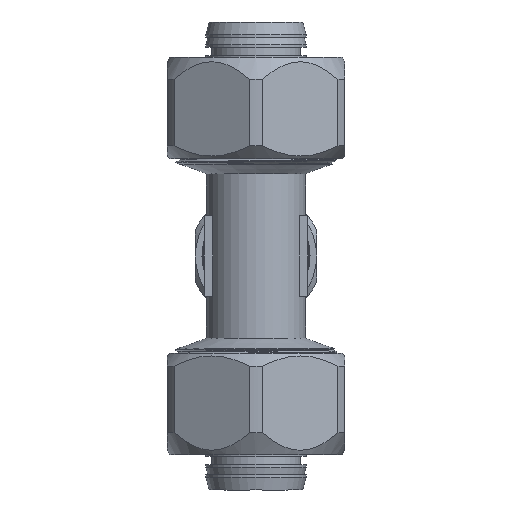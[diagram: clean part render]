
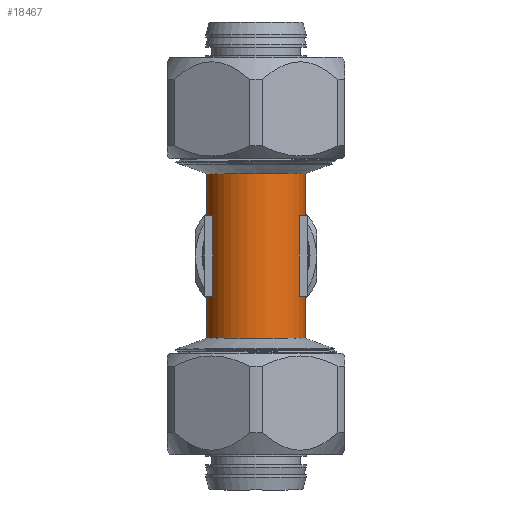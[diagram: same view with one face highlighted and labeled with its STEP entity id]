
A CAD part, front view. The second image highlights one B-rep face of the part: STEP entity #18467.
In plain terms, the highlighted cylindrical face has radius 9.8 mm (diameter 19.6 mm), a full revolution.
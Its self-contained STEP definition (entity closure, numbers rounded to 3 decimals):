
#226=B_SPLINE_CURVE_WITH_KNOTS('',3,(#24509,#24510,#24511,#24512,#24513,
#24514,#24515,#24516,#24517,#24518,#24519,#24520),.UNSPECIFIED.,.F.,.F.,
(4,2,2,2,2,4),(0.,0.165,0.33,0.661,
0.98,1.298),.UNSPECIFIED.);
#227=B_SPLINE_CURVE_WITH_KNOTS('',3,(#24522,#24523,#24524,#24525,#24526,
#24527,#24528,#24529,#24530,#24531,#24532,#24533),.UNSPECIFIED.,.F.,.F.,
(4,2,2,2,2,4),(3.895,4.214,4.533,4.863,
5.028,5.194),.UNSPECIFIED.);
#228=B_SPLINE_CURVE_WITH_KNOTS('',3,(#24534,#24535,#24536,#24537,#24538,
#24539,#24540,#24541,#24542,#24543,#24544,#24545,#24546,#24547,#24548,#24549,
#24550,#24551,#24552,#24553,#24554,#24555),.UNSPECIFIED.,.F.,.F.,(4,2,2,
2,2,2,2,2,2,2,4),(1.298,1.617,1.936,2.266,
2.432,2.597,2.762,2.927,3.258,
3.577,3.895),.UNSPECIFIED.);
#1949=FACE_BOUND('',#3684,.T.);
#1950=FACE_BOUND('',#3685,.T.);
#2374=CYLINDRICAL_SURFACE('',#19710,9.8);
#2607=FACE_OUTER_BOUND('',#3683,.T.);
#3683=EDGE_LOOP('',(#12833,#12834,#12835,#12836,#12837,#12838,#12839,#12840,
#12841,#12842));
#3684=EDGE_LOOP('',(#12843,#12844,#12845,#12846));
#3685=EDGE_LOOP('',(#12847,#12848,#12849,#12850));
#4892=LINE('',#24407,#6052);
#4895=LINE('',#24413,#6055);
#4900=LINE('',#24424,#6060);
#4904=LINE('',#24434,#6064);
#4912=LINE('',#24576,#6072);
#4913=LINE('',#24578,#6073);
#6052=VECTOR('',#20926,10.);
#6055=VECTOR('',#20931,10.);
#6060=VECTOR('',#20942,10.);
#6064=VECTOR('',#20954,10.);
#6072=VECTOR('',#21008,9.8);
#6073=VECTOR('',#21009,9.8);
#7113=CIRCLE('',#19627,9.8);
#7125=CIRCLE('',#19676,9.8);
#7126=CIRCLE('',#19678,9.8);
#7127=CIRCLE('',#19682,9.8);
#7128=CIRCLE('',#19686,9.8);
#7142=CIRCLE('',#19711,9.8);
#7143=CIRCLE('',#19712,9.8);
#7592=VERTEX_POINT('',#24031);
#7676=VERTEX_POINT('',#24388);
#7677=VERTEX_POINT('',#24389);
#7680=VERTEX_POINT('',#24397);
#7681=VERTEX_POINT('',#24398);
#7684=VERTEX_POINT('',#24406);
#7686=VERTEX_POINT('',#24412);
#7688=VERTEX_POINT('',#24418);
#7690=VERTEX_POINT('',#24428);
#7702=VERTEX_POINT('',#24506);
#7703=VERTEX_POINT('',#24508);
#7704=VERTEX_POINT('',#24521);
#7711=VERTEX_POINT('',#24577);
#7712=VERTEX_POINT('',#24579);
#9569=EDGE_CURVE('',#7592,#7592,#7113,.T.);
#9693=EDGE_CURVE('',#7676,#7677,#7125,.T.);
#9697=EDGE_CURVE('',#7680,#7681,#7126,.T.);
#9701=EDGE_CURVE('',#7684,#7676,#4892,.T.);
#9704=EDGE_CURVE('',#7681,#7686,#4895,.T.);
#9707=EDGE_CURVE('',#7688,#7684,#7127,.T.);
#9710=EDGE_CURVE('',#7677,#7688,#4900,.T.);
#9712=EDGE_CURVE('',#7686,#7690,#7128,.T.);
#9715=EDGE_CURVE('',#7690,#7680,#4904,.T.);
#9731=EDGE_CURVE('',#7703,#7702,#226,.T.);
#9732=EDGE_CURVE('',#7704,#7703,#227,.T.);
#9733=EDGE_CURVE('',#7702,#7704,#228,.T.);
#9742=EDGE_CURVE('',#7592,#7704,#4912,.T.);
#9743=EDGE_CURVE('',#7702,#7711,#4913,.T.);
#9744=EDGE_CURVE('',#7711,#7712,#7142,.T.);
#9745=EDGE_CURVE('',#7712,#7711,#7143,.T.);
#12833=ORIENTED_EDGE('',*,*,#9569,.T.);
#12834=ORIENTED_EDGE('',*,*,#9742,.T.);
#12835=ORIENTED_EDGE('',*,*,#9732,.T.);
#12836=ORIENTED_EDGE('',*,*,#9731,.T.);
#12837=ORIENTED_EDGE('',*,*,#9743,.T.);
#12838=ORIENTED_EDGE('',*,*,#9744,.T.);
#12839=ORIENTED_EDGE('',*,*,#9745,.T.);
#12840=ORIENTED_EDGE('',*,*,#9743,.F.);
#12841=ORIENTED_EDGE('',*,*,#9733,.T.);
#12842=ORIENTED_EDGE('',*,*,#9742,.F.);
#12843=ORIENTED_EDGE('',*,*,#9697,.T.);
#12844=ORIENTED_EDGE('',*,*,#9704,.T.);
#12845=ORIENTED_EDGE('',*,*,#9712,.T.);
#12846=ORIENTED_EDGE('',*,*,#9715,.T.);
#12847=ORIENTED_EDGE('',*,*,#9693,.T.);
#12848=ORIENTED_EDGE('',*,*,#9710,.T.);
#12849=ORIENTED_EDGE('',*,*,#9707,.T.);
#12850=ORIENTED_EDGE('',*,*,#9701,.T.);
#18467=ADVANCED_FACE('',(#2607,#1949,#1950),#2374,.T.);
#19627=AXIS2_PLACEMENT_3D('',#24032,#20718,#20719);
#19676=AXIS2_PLACEMENT_3D('',#24390,#20912,#20913);
#19678=AXIS2_PLACEMENT_3D('',#24399,#20919,#20920);
#19682=AXIS2_PLACEMENT_3D('',#24419,#20936,#20937);
#19686=AXIS2_PLACEMENT_3D('',#24429,#20948,#20949);
#19710=AXIS2_PLACEMENT_3D('',#24575,#21006,#21007);
#19711=AXIS2_PLACEMENT_3D('',#24580,#21010,#21011);
#19712=AXIS2_PLACEMENT_3D('',#24581,#21012,#21013);
#20718=DIRECTION('center_axis',(0.,0.,-1.));
#20719=DIRECTION('ref_axis',(0.,-1.,0.));
#20912=DIRECTION('center_axis',(0.,0.,-1.));
#20913=DIRECTION('ref_axis',(0.,-1.,0.));
#20919=DIRECTION('center_axis',(0.,0.,-1.));
#20920=DIRECTION('ref_axis',(0.,-1.,0.));
#20926=DIRECTION('',(0.,0.,-1.));
#20931=DIRECTION('',(0.,0.,1.));
#20936=DIRECTION('center_axis',(0.,0.,1.));
#20937=DIRECTION('ref_axis',(0.,-1.,0.));
#20942=DIRECTION('',(0.,0.,1.));
#20948=DIRECTION('center_axis',(0.,0.,1.));
#20949=DIRECTION('ref_axis',(0.,-1.,0.));
#20954=DIRECTION('',(0.,0.,-1.));
#21006=DIRECTION('center_axis',(0.,0.,1.));
#21007=DIRECTION('ref_axis',(0.,-1.,0.));
#21008=DIRECTION('',(0.,0.,-1.));
#21009=DIRECTION('',(0.,0.,-1.));
#21010=DIRECTION('center_axis',(0.,0.,1.));
#21011=DIRECTION('ref_axis',(1.,0.,0.));
#21012=DIRECTION('center_axis',(0.,0.,1.));
#21013=DIRECTION('ref_axis',(1.,0.,0.));
#24031=CARTESIAN_POINT('',(0.,9.8,16.249));
#24032=CARTESIAN_POINT('Origin',(0.,0.,16.249));
#24388=CARTESIAN_POINT('',(-8.564,-4.764,-8.));
#24389=CARTESIAN_POINT('',(-8.579,4.736,-8.));
#24390=CARTESIAN_POINT('Origin',(0.,0.,-8.));
#24397=CARTESIAN_POINT('',(8.579,4.736,-8.));
#24398=CARTESIAN_POINT('',(8.564,-4.764,-8.));
#24399=CARTESIAN_POINT('Origin',(0.,0.,-8.));
#24406=CARTESIAN_POINT('',(-8.564,-4.764,8.));
#24407=CARTESIAN_POINT('',(-8.564,-4.764,-8.125));
#24412=CARTESIAN_POINT('',(8.564,-4.764,8.));
#24413=CARTESIAN_POINT('',(8.564,-4.764,-8.125));
#24418=CARTESIAN_POINT('',(-8.579,4.736,8.));
#24419=CARTESIAN_POINT('Origin',(0.,0.,8.));
#24424=CARTESIAN_POINT('',(-8.579,4.736,-8.125));
#24428=CARTESIAN_POINT('',(8.579,4.736,8.));
#24429=CARTESIAN_POINT('Origin',(0.,0.,8.));
#24434=CARTESIAN_POINT('',(8.579,4.736,-8.125));
#24506=CARTESIAN_POINT('',(0.,9.8,-8.));
#24508=CARTESIAN_POINT('',(-8.,5.66,0.));
#24509=CARTESIAN_POINT('Ctrl Pts',(-8.,5.66,0.));
#24510=CARTESIAN_POINT('Ctrl Pts',(-8.,5.66,-0.551));
#24511=CARTESIAN_POINT('Ctrl Pts',(-7.943,5.743,-1.094));
#24512=CARTESIAN_POINT('Ctrl Pts',(-7.726,6.032,-2.144));
#24513=CARTESIAN_POINT('Ctrl Pts',(-7.566,6.236,-2.651));
#24514=CARTESIAN_POINT('Ctrl Pts',(-6.951,6.936,-4.096));
#24515=CARTESIAN_POINT('Ctrl Pts',(-6.354,7.51,-4.96));
#24516=CARTESIAN_POINT('Ctrl Pts',(-4.985,8.478,-6.329));
#24517=CARTESIAN_POINT('Ctrl Pts',(-4.121,8.952,-6.939));
#24518=CARTESIAN_POINT('Ctrl Pts',(-2.161,9.615,-7.776));
#24519=CARTESIAN_POINT('Ctrl Pts',(-1.063,9.8,-8.));
#24520=CARTESIAN_POINT('Ctrl Pts',(0.,9.8,
-8.));
#24521=CARTESIAN_POINT('',(0.,9.8,8.));
#24522=CARTESIAN_POINT('Ctrl Pts',(0.,9.8,
8.));
#24523=CARTESIAN_POINT('Ctrl Pts',(-1.063,9.8,8.));
#24524=CARTESIAN_POINT('Ctrl Pts',(-2.161,9.615,7.776));
#24525=CARTESIAN_POINT('Ctrl Pts',(-4.121,8.952,6.939));
#24526=CARTESIAN_POINT('Ctrl Pts',(-4.985,8.478,6.329));
#24527=CARTESIAN_POINT('Ctrl Pts',(-6.354,7.51,4.96));
#24528=CARTESIAN_POINT('Ctrl Pts',(-6.951,6.936,4.096));
#24529=CARTESIAN_POINT('Ctrl Pts',(-7.566,6.236,2.651));
#24530=CARTESIAN_POINT('Ctrl Pts',(-7.726,6.032,2.144));
#24531=CARTESIAN_POINT('Ctrl Pts',(-7.943,5.743,1.094));
#24532=CARTESIAN_POINT('Ctrl Pts',(-8.,5.66,0.551));
#24533=CARTESIAN_POINT('Ctrl Pts',(-8.,5.66,0.));
#24534=CARTESIAN_POINT('Ctrl Pts',(0.,9.8,
-8.));
#24535=CARTESIAN_POINT('Ctrl Pts',(1.063,9.8,-8.));
#24536=CARTESIAN_POINT('Ctrl Pts',(2.161,9.615,-7.776));
#24537=CARTESIAN_POINT('Ctrl Pts',(4.121,8.952,-6.939));
#24538=CARTESIAN_POINT('Ctrl Pts',(4.985,8.478,-6.329));
#24539=CARTESIAN_POINT('Ctrl Pts',(6.354,7.51,-4.96));
#24540=CARTESIAN_POINT('Ctrl Pts',(6.951,6.936,-4.096));
#24541=CARTESIAN_POINT('Ctrl Pts',(7.566,6.236,-2.651));
#24542=CARTESIAN_POINT('Ctrl Pts',(7.726,6.032,-2.144));
#24543=CARTESIAN_POINT('Ctrl Pts',(7.943,5.743,-1.094));
#24544=CARTESIAN_POINT('Ctrl Pts',(8.,5.66,-0.551));
#24545=CARTESIAN_POINT('Ctrl Pts',(8.,5.66,0.551));
#24546=CARTESIAN_POINT('Ctrl Pts',(7.943,5.743,1.094));
#24547=CARTESIAN_POINT('Ctrl Pts',(7.726,6.032,2.144));
#24548=CARTESIAN_POINT('Ctrl Pts',(7.566,6.236,2.651));
#24549=CARTESIAN_POINT('Ctrl Pts',(6.951,6.936,4.096));
#24550=CARTESIAN_POINT('Ctrl Pts',(6.354,7.51,4.96));
#24551=CARTESIAN_POINT('Ctrl Pts',(4.985,8.478,6.329));
#24552=CARTESIAN_POINT('Ctrl Pts',(4.121,8.952,6.939));
#24553=CARTESIAN_POINT('Ctrl Pts',(2.161,9.615,7.776));
#24554=CARTESIAN_POINT('Ctrl Pts',(1.063,9.8,8.));
#24555=CARTESIAN_POINT('Ctrl Pts',(0.,9.8,
8.));
#24575=CARTESIAN_POINT('Origin',(0.,0.,-8.125));
#24576=CARTESIAN_POINT('',(0.,9.8,-8.125));
#24577=CARTESIAN_POINT('',(0.,9.8,-16.25));
#24578=CARTESIAN_POINT('',(0.,9.8,-8.125));
#24579=CARTESIAN_POINT('',(0.,-9.8,-16.25));
#24580=CARTESIAN_POINT('Origin',(0.,0.,-16.25));
#24581=CARTESIAN_POINT('Origin',(0.,0.,-16.25));
